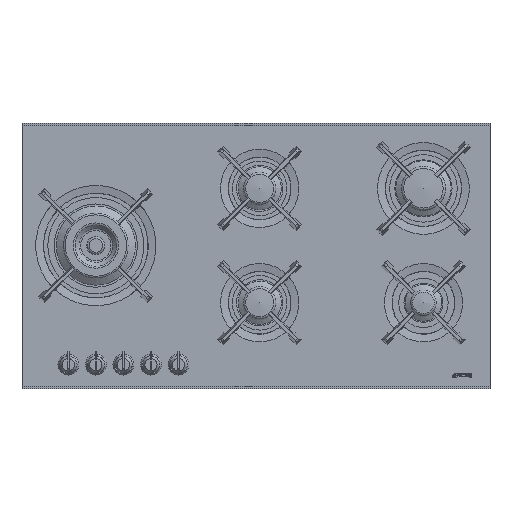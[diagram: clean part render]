
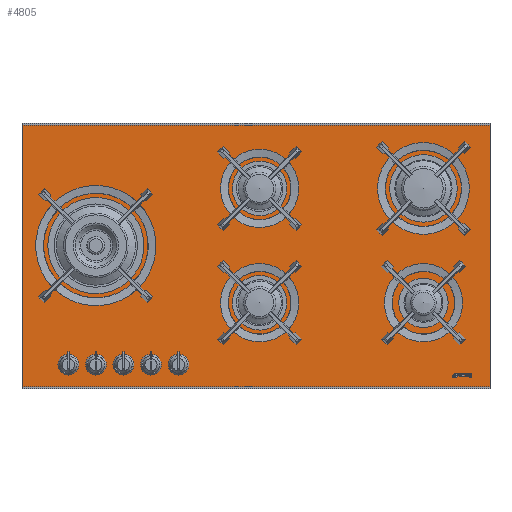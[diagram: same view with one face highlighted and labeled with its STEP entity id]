
A CAD part, top view. The second image highlights one B-rep face of the part: STEP entity #4805.
In plain terms, the highlighted planar face has unit normal (0, 0, 1).
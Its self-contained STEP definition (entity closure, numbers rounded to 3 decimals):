
#1197=LINE('',#21080,#2338);
#1201=LINE('',#21088,#2342);
#1204=LINE('',#21094,#2345);
#1206=LINE('',#21097,#2347);
#2338=VECTOR('',#16734,1.);
#2342=VECTOR('',#16740,1.);
#2345=VECTOR('',#16745,1.);
#2347=VECTOR('',#16749,1.);
#3510=PLANE('',#13792);
#4805=ADVANCED_FACE('',(#5386,#5387,#5388,#5389,#5390,#5391,#5392,#5393,
#5394,#5395,#5396),#3510,.T.);
#5386=FACE_BOUND('',#6238,.T.);
#5387=FACE_BOUND('',#6239,.T.);
#5388=FACE_BOUND('',#6240,.T.);
#5389=FACE_BOUND('',#6241,.T.);
#5390=FACE_BOUND('',#6242,.T.);
#5391=FACE_BOUND('',#6243,.T.);
#5392=FACE_BOUND('',#6244,.T.);
#5393=FACE_BOUND('',#6245,.T.);
#5394=FACE_BOUND('',#6246,.T.);
#5395=FACE_BOUND('',#6247,.T.);
#5396=FACE_BOUND('',#6248,.T.);
#6238=EDGE_LOOP('',(#9158));
#6239=EDGE_LOOP('',(#9159));
#6240=EDGE_LOOP('',(#9160));
#6241=EDGE_LOOP('',(#9161));
#6242=EDGE_LOOP('',(#9162));
#6243=EDGE_LOOP('',(#9163));
#6244=EDGE_LOOP('',(#9164));
#6245=EDGE_LOOP('',(#9165));
#6246=EDGE_LOOP('',(#9166));
#6247=EDGE_LOOP('',(#9167));
#6248=EDGE_LOOP('',(#9168,#9169,#9170,#9171));
#9158=ORIENTED_EDGE('',*,*,#12330,.F.);
#9159=ORIENTED_EDGE('',*,*,#12331,.F.);
#9160=ORIENTED_EDGE('',*,*,#12332,.F.);
#9161=ORIENTED_EDGE('',*,*,#12333,.F.);
#9162=ORIENTED_EDGE('',*,*,#12334,.F.);
#9163=ORIENTED_EDGE('',*,*,#12335,.F.);
#9164=ORIENTED_EDGE('',*,*,#12336,.F.);
#9165=ORIENTED_EDGE('',*,*,#12337,.F.);
#9166=ORIENTED_EDGE('',*,*,#12338,.F.);
#9167=ORIENTED_EDGE('',*,*,#12339,.F.);
#9168=ORIENTED_EDGE('',*,*,#12320,.T.);
#9169=ORIENTED_EDGE('',*,*,#12324,.T.);
#9170=ORIENTED_EDGE('',*,*,#12327,.T.);
#9171=ORIENTED_EDGE('',*,*,#12329,.T.);
#10745=VERTEX_POINT('',#21079);
#10746=VERTEX_POINT('',#21081);
#10748=VERTEX_POINT('',#21087);
#10750=VERTEX_POINT('',#21093);
#10751=VERTEX_POINT('',#21100);
#10752=VERTEX_POINT('',#21102);
#10753=VERTEX_POINT('',#21104);
#10754=VERTEX_POINT('',#21106);
#10755=VERTEX_POINT('',#21108);
#10756=VERTEX_POINT('',#21110);
#10757=VERTEX_POINT('',#21112);
#10758=VERTEX_POINT('',#21114);
#10759=VERTEX_POINT('',#21116);
#10760=VERTEX_POINT('',#21118);
#12320=EDGE_CURVE('',#10746,#10745,#1197,.T.);
#12324=EDGE_CURVE('',#10745,#10748,#1201,.T.);
#12327=EDGE_CURVE('',#10748,#10750,#1204,.T.);
#12329=EDGE_CURVE('',#10750,#10746,#1206,.T.);
#12330=EDGE_CURVE('',#10751,#10751,#12837,.T.);
#12331=EDGE_CURVE('',#10752,#10752,#12838,.T.);
#12332=EDGE_CURVE('',#10753,#10753,#12839,.T.);
#12333=EDGE_CURVE('',#10754,#10754,#12840,.T.);
#12334=EDGE_CURVE('',#10755,#10755,#12841,.T.);
#12335=EDGE_CURVE('',#10756,#10756,#12842,.T.);
#12336=EDGE_CURVE('',#10757,#10757,#12843,.T.);
#12337=EDGE_CURVE('',#10758,#10758,#12844,.T.);
#12338=EDGE_CURVE('',#10759,#10759,#12845,.T.);
#12339=EDGE_CURVE('',#10760,#10760,#12846,.T.);
#12837=CIRCLE('',#13782,10.);
#12838=CIRCLE('',#13783,10.);
#12839=CIRCLE('',#13784,10.);
#12840=CIRCLE('',#13785,10.);
#12841=CIRCLE('',#13786,10.);
#12842=CIRCLE('',#13787,90.);
#12843=CIRCLE('',#13788,50.);
#12844=CIRCLE('',#13789,50.);
#12845=CIRCLE('',#13790,62.5);
#12846=CIRCLE('',#13791,45.);
#13782=AXIS2_PLACEMENT_3D('',#21099,#16752,#16753);
#13783=AXIS2_PLACEMENT_3D('',#21101,#16754,#16755);
#13784=AXIS2_PLACEMENT_3D('',#21103,#16756,#16757);
#13785=AXIS2_PLACEMENT_3D('',#21105,#16758,#16759);
#13786=AXIS2_PLACEMENT_3D('',#21107,#16760,#16761);
#13787=AXIS2_PLACEMENT_3D('',#21109,#16762,#16763);
#13788=AXIS2_PLACEMENT_3D('',#21111,#16764,#16765);
#13789=AXIS2_PLACEMENT_3D('',#21113,#16766,#16767);
#13790=AXIS2_PLACEMENT_3D('',#21115,#16768,#16769);
#13791=AXIS2_PLACEMENT_3D('',#21117,#16770,#16771);
#13792=AXIS2_PLACEMENT_3D('',#21119,#16772,#16773);
#16734=DIRECTION('',(0.,-1.,0.));
#16740=DIRECTION('',(1.,0.,0.));
#16745=DIRECTION('',(0.,1.,0.));
#16749=DIRECTION('',(-1.,0.,0.));
#16752=DIRECTION('',(0.,0.,1.));
#16753=DIRECTION('',(1.,0.,0.));
#16754=DIRECTION('',(0.,0.,1.));
#16755=DIRECTION('',(1.,0.,0.));
#16756=DIRECTION('',(0.,0.,1.));
#16757=DIRECTION('',(1.,0.,0.));
#16758=DIRECTION('',(0.,0.,1.));
#16759=DIRECTION('',(1.,0.,0.));
#16760=DIRECTION('',(0.,0.,1.));
#16761=DIRECTION('',(1.,0.,0.));
#16762=DIRECTION('',(0.,0.,1.));
#16763=DIRECTION('',(1.,0.,0.));
#16764=DIRECTION('',(0.,0.,1.));
#16765=DIRECTION('',(1.,0.,0.));
#16766=DIRECTION('',(0.,0.,1.));
#16767=DIRECTION('',(1.,0.,0.));
#16768=DIRECTION('',(0.,0.,1.));
#16769=DIRECTION('',(1.,0.,0.));
#16770=DIRECTION('',(0.,0.,1.));
#16771=DIRECTION('',(1.,0.,0.));
#16772=DIRECTION('',(0.,0.,1.));
#16773=DIRECTION('',(1.,0.,0.));
#21079=CARTESIAN_POINT('',(-450.,-13.,50.5));
#21080=CARTESIAN_POINT('',(-450.,489.,50.5));
#21081=CARTESIAN_POINT('',(-450.,489.,50.5));
#21087=CARTESIAN_POINT('',(450.,-13.,50.5));
#21088=CARTESIAN_POINT('',(-450.,-13.,50.5));
#21093=CARTESIAN_POINT('',(450.,489.,50.5));
#21094=CARTESIAN_POINT('',(450.,-13.,50.5));
#21097=CARTESIAN_POINT('',(450.,489.,50.5));
#21099=CARTESIAN_POINT('',(-149.,29.,50.5));
#21100=CARTESIAN_POINT('',(-139.,29.,50.5));
#21101=CARTESIAN_POINT('',(-202.,29.,50.5));
#21102=CARTESIAN_POINT('',(-192.,29.,50.5));
#21103=CARTESIAN_POINT('',(-255.,29.,50.5));
#21104=CARTESIAN_POINT('',(-245.,29.,50.5));
#21105=CARTESIAN_POINT('',(-308.,29.,50.5));
#21106=CARTESIAN_POINT('',(-298.,29.,50.5));
#21107=CARTESIAN_POINT('',(-361.,29.,50.5));
#21108=CARTESIAN_POINT('',(-351.,29.,50.5));
#21109=CARTESIAN_POINT('',(-308.,258.,50.5));
#21110=CARTESIAN_POINT('',(-218.,258.,50.5));
#21111=CARTESIAN_POINT('',(7.,148.,50.5));
#21112=CARTESIAN_POINT('',(57.,148.,50.5));
#21113=CARTESIAN_POINT('',(7.,368.,50.5));
#21114=CARTESIAN_POINT('',(57.,368.,50.5));
#21115=CARTESIAN_POINT('',(322.,368.,50.5));
#21116=CARTESIAN_POINT('',(384.5,368.,50.5));
#21117=CARTESIAN_POINT('',(322.,148.,50.5));
#21118=CARTESIAN_POINT('',(367.,148.,50.5));
#21119=CARTESIAN_POINT('',(0.,-13.,50.5));
